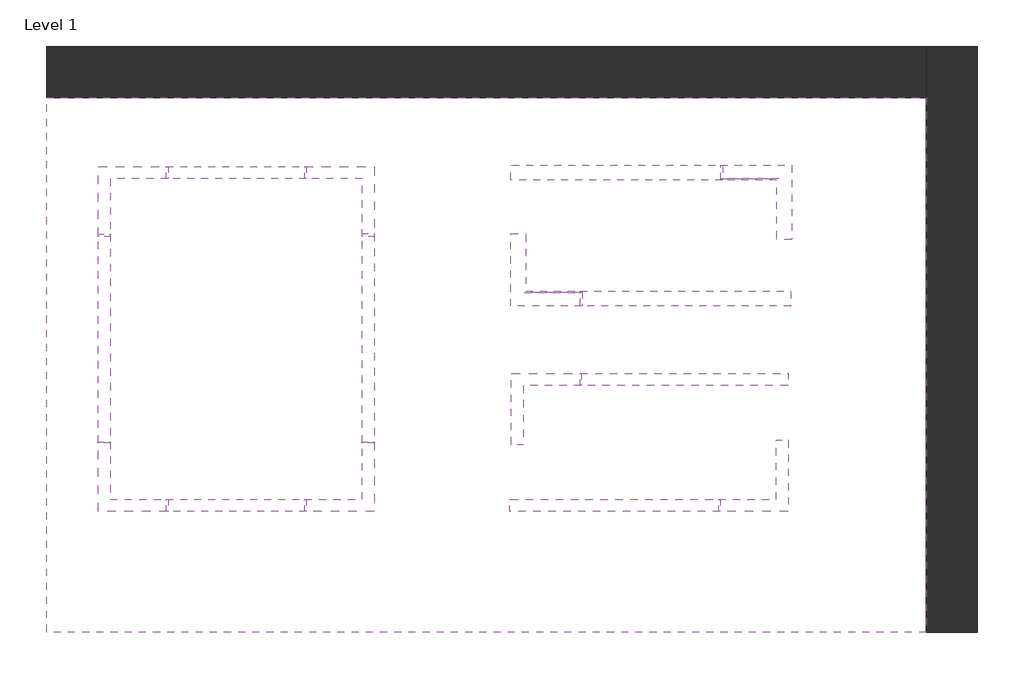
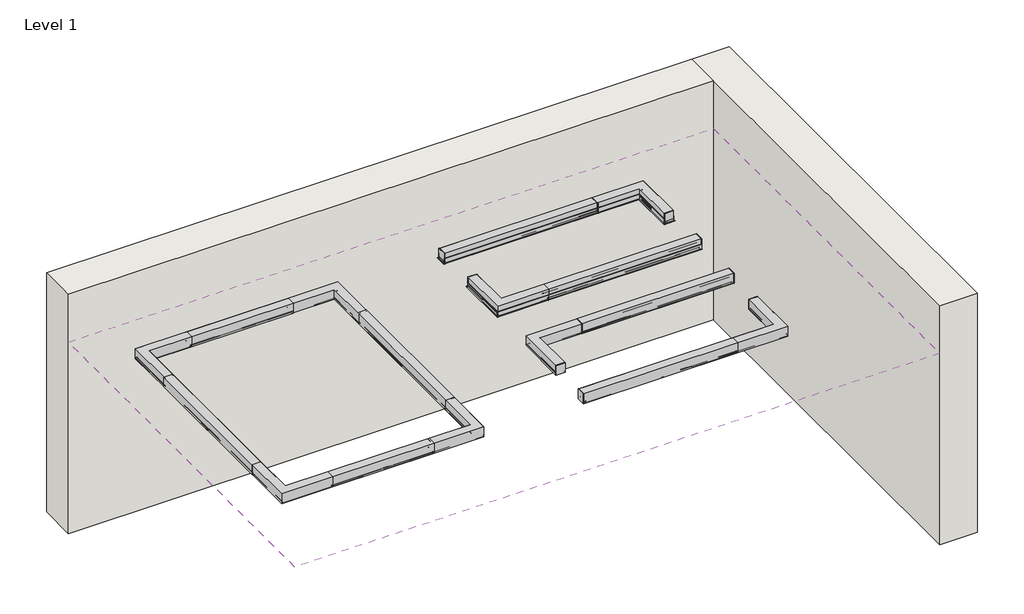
# One storey: 16 light fixtures, 2 walls, 1 covering.
"""IFC4 building model written with IfcOpenShell, lengths in millimetres."""

from ifc_helpers import new_model, si_unit, origin, origin_with_axes, place, context, project, spatial, polyline, outline, extrude, faceted_brep, transform, mapped, element, save
from components import lighting_recessed_axis_extend_4_c019952e, lighting_recessed_axis_extend_4_53cd2307, lighting_recessed_axis_extend_4_c7a2c006, lighting_recessed_axis_extend_4_4ed69525, lighting_recessed_axis_extend_4_3b23e5d8, lighting_recessed_axis_extend_4_e0629199, lighting_recessed_axis_extend_4_corner_2x2_46e1a410, lighting_recessed_axis_extend_4_corner_2x2_4d560086, lighting_recessed_axis_extend_4_corner_2x2_71452913, lighting_recessed_axis_extend_4_corner_2x2_6065db3e

model = new_model("IFC4")

# Units and contexts
model_context = context("Model", 3, world=origin())
ifc_project = project(units=[si_unit("LENGTHUNIT", "METRE", prefix="MILLI")], contexts=[model_context])

# Site, building, storey
site = spatial("IfcSite", under=ifc_project)
building = spatial("IfcBuilding", under=site)
storey = spatial("IfcBuildingStorey", under=building, Name="Level 1", Elevation=0.0)

# Covering
placement = place(None, origin())
element("IfcCovering", 1, ObjectType="2' x 4' ACT System", at=placement, inside=storey, context=model_context, shape_type="Brep", body=[
    faceted_brep([(-4065.1843493, 6283.1270347, 2495.55), (-4065.1843493, 1558.7270347, 2495.55), (3707.2156507, 1558.7270347, 2495.55), (3707.2156507, 6283.1270347, 2495.55), (2383.5231266, 2731.0970547, 2495.55), (2383.5231266, 3256.4630347, 2495.55), (2489.0931466, 3256.4630347, 2495.55), (2489.0931466, 2625.5270347, 2495.55), (1888.3142184, 2625.5270347, 2495.55), (1888.3142184, 2625.3298266, 2495.55), (29.0215184, 2625.3298266, 2495.55), (29.0215184, 2730.8998466, 2495.55), (1865.8606184, 2730.8998466, 2495.55), (1865.8606184, 2731.0970547, 2495.55), (2488.4131607, 3739.1570147, 2495.55), (147.1333854, 3739.1570147, 2495.55), (147.1333854, 3213.7910347, 2495.55), (41.5633654, 3213.7910347, 2495.55), (41.5633654, 3844.7270347, 2495.55), (2488.4131607, 3844.7270347, 2495.55), (155.5831807, 5077.2239347, 2495.55), (155.5831807, 4559.5614265, 2495.55), (648.1704607, 4559.5614265, 2495.55), (648.1704607, 4562.1830547, 2495.55), (2512.0351607, 4562.1830547, 2495.55), (2512.0351607, 4452.0410347, 2495.55), (648.1704607, 4452.0410347, 2495.55), (648.1704607, 4453.9914065, 2495.55), (50.0131607, 4453.9914065, 2495.55), (50.0131607, 5077.2239347, 2495.55), (2402.8600035, 5042.5910347, 2495.55), (2402.8600035, 5568.2926428, 2495.55), (1910.2727235, 5568.2926428, 2495.55), (1910.2727235, 5565.6710147, 2495.55), (46.4080235, 5565.6710147, 2495.55), (46.4080235, 5675.8130347, 2495.55), (1910.2727235, 5675.8130347, 2495.55), (1910.2727235, 5673.8626628, 2495.55), (2508.4300235, 5673.8626628, 2495.55), (2508.4300235, 5042.5910347, 2495.55), (-1785.7337393, 5674.2601728, 2495.55), (-1169.1868393, 5674.2601728, 2495.55), (-1169.1868393, 5080.4341307, 2495.55), (-1168.5468494, 5080.4341307, 2495.55), (-1168.5468494, 3233.3207307, 2495.55), (-1169.2487211, 3233.3207307, 2495.55), (-1169.2487211, 2625.5270347, 2495.55), (-2991.4374493, 2625.5270347, 2495.55), (-2991.4374493, 2624.7990578, 2495.55), (-3607.9843493, 2624.7990578, 2495.55), (-3608.0852607, 5673.9245447, 2495.55), (-1785.7337393, 5673.9245447, 2495.55), (-4065.1843493, 1558.7270347, 2438.4), (-4065.1843493, 6283.1270347, 2438.4), (3707.2156507, 6283.1270347, 2438.4), (3707.2156507, 1558.7270347, 2438.4), (2383.5231266, 3256.4630347, 2438.4), (2383.5231266, 2731.0970547, 2438.4), (1865.8606184, 2731.0970547, 2438.4), (1865.8606184, 2730.8998466, 2438.4), (29.0215184, 2730.8998466, 2438.4), (29.0215184, 2625.3298266, 2438.4), (1888.3142184, 2625.3298266, 2438.4), (1888.3142184, 2625.5270347, 2438.4), (2489.0931466, 2625.5270347, 2438.4), (2489.0931466, 3256.4630347, 2438.4), (147.1333854, 3213.7910347, 2438.4), (147.1333854, 3739.1570147, 2438.4), (2488.4131607, 3739.1570147, 2438.4), (2488.4131607, 3844.7270347, 2438.4), (41.5633654, 3844.7270347, 2438.4), (41.5633654, 3213.7910347, 2438.4), (155.5831807, 4559.5614265, 2438.4), (155.5831807, 5077.2239347, 2438.4), (50.0131607, 5077.2239347, 2438.4), (50.0131607, 4453.9914065, 2438.4), (648.1704607, 4453.9914065, 2438.4), (648.1704607, 4452.0410347, 2438.4), (2512.0351607, 4452.0410347, 2438.4), (2512.0351607, 4562.1830547, 2438.4), (648.1704607, 4562.1830547, 2438.4), (648.1704607, 4559.5614265, 2438.4), (2402.8600035, 5568.2926428, 2438.4), (2402.8600035, 5042.5910347, 2438.4), (2508.4300235, 5042.5910347, 2438.4), (2508.4300235, 5673.8626628, 2438.4), (1910.2727235, 5673.8626628, 2438.4), (1910.2727235, 5675.8130347, 2438.4), (46.4080235, 5675.8130347, 2438.4), (46.4080235, 5565.6710147, 2438.4), (1910.2727235, 5565.6710147, 2438.4), (1910.2727235, 5568.2926428, 2438.4), (-1169.1868393, 5674.2601728, 2438.4), (-1785.7337393, 5674.2601728, 2438.4), (-1785.7337393, 5673.9245447, 2438.4), (-3608.0852607, 5673.9245447, 2438.4), (-3607.9843493, 2624.7990578, 2438.4), (-2991.4374493, 2624.7990578, 2438.4), (-2991.4374493, 2625.5270347, 2438.4), (-1169.2487211, 2625.5270347, 2438.4), (-1169.2487211, 3233.3207307, 2438.4), (-1168.5468494, 3233.3207307, 2438.4), (-1168.5468494, 5080.4341307, 2438.4), (-1169.1868393, 5080.4341307, 2438.4)], [[[0, 1, 2, 3], [4, 5, 6, 7, 8, 9, 10, 11, 12, 13], [14, 15, 16, 17, 18, 19], [20, 21, 22, 23, 24, 25, 26, 27, 28, 29], [30, 31, 32, 33, 34, 35, 36, 37, 38, 39], [40, 41, 42, 43, 44, 45, 46, 47, 48, 49, 50, 51]], [[52, 53, 54, 55], [56, 57, 58, 59, 60, 61, 62, 63, 64, 65], [66, 67, 68, 69, 70, 71], [72, 73, 74, 75, 76, 77, 78, 79, 80, 81], [82, 83, 84, 85, 86, 87, 88, 89, 90, 91], [92, 93, 94, 95, 96, 97, 98, 99, 100, 101, 102, 103]], [[1, 0, 53, 52]], [[2, 1, 52, 55]], [[3, 2, 55, 54]], [[0, 3, 54, 53]], [[56, 5, 4, 57]], [[57, 4, 13, 58]], [[58, 13, 12, 59]], [[7, 64, 63, 8]], [[64, 7, 6, 65]], [[5, 56, 65, 6]], [[9, 62, 61, 10]], [[60, 11, 10, 61]], [[11, 60, 59, 12]], [[62, 9, 8, 63]], [[66, 16, 15, 67]], [[67, 15, 14, 68]], [[18, 70, 69, 19]], [[70, 18, 17, 71]], [[16, 66, 71, 17]], [[68, 14, 19, 69]], [[21, 72, 81, 22]], [[72, 21, 20, 73]], [[73, 20, 29, 74]], [[74, 29, 28, 75]], [[75, 28, 27, 76]], [[31, 82, 91, 32]], [[82, 31, 30, 83]], [[83, 30, 39, 84]], [[84, 39, 38, 85]], [[85, 38, 37, 86]], [[46, 99, 98, 47]], [[99, 46, 45, 100]], [[95, 50, 49, 96]], [[41, 92, 103, 42]], [[92, 41, 40, 93]], [[93, 40, 51, 94]], [[96, 49, 48, 97]], [[97, 48, 47, 98]], [[50, 95, 94, 51]], [[43, 102, 101, 44]], [[44, 101, 100, 45]], [[102, 43, 42, 103]], [[25, 78, 77, 26]], [[26, 77, 76, 27]], [[80, 23, 22, 81]], [[23, 80, 79, 24]], [[78, 25, 24, 79]], [[33, 90, 89, 34]], [[34, 89, 88, 35]], [[35, 88, 87, 36]], [[90, 33, 32, 91]], [[36, 87, 86, 37]]]),
    faceted_brep([(-1274.8187411, 2731.0970547, 2495.55), (-1274.8187411, 3242.0739347, 2495.55), (-1274.1168694, 3242.0739347, 2495.55), (-1274.1168694, 5051.0276447, 2495.55), (-1274.7568593, 5051.0276447, 2495.55), (-1274.7568593, 5568.6901528, 2495.55), (-1769.6301393, 5568.6901528, 2495.55), (-1769.6301393, 5568.3545247, 2495.55), (-3502.5152407, 5568.3545247, 2495.55), (-3502.4143293, 2730.3690778, 2495.55), (-3007.5410493, 2730.3690778, 2495.55), (-3007.5410493, 2731.0970547, 2495.55), (-1274.8187411, 3242.0739347, 2438.4), (-1274.8187411, 2731.0970547, 2438.4), (-3007.5410493, 2731.0970547, 2438.4), (-3007.5410493, 2730.3690778, 2438.4), (-3502.4143293, 2730.3690778, 2438.4), (-3502.5152407, 5568.3545247, 2438.4), (-1769.6301393, 5568.3545247, 2438.4), (-1769.6301393, 5568.6901528, 2438.4), (-1274.7568593, 5568.6901528, 2438.4), (-1274.7568593, 5051.0276447, 2438.4), (-1274.1168694, 5051.0276447, 2438.4), (-1274.1168694, 3242.0739347, 2438.4)], [[[0, 1, 2, 3, 4, 5, 6, 7, 8, 9, 10, 11]], [[12, 13, 14, 15, 16, 17, 18, 19, 20, 21, 22, 23]], [[12, 1, 0, 13]], [[13, 0, 11, 14]], [[1, 12, 23, 2]], [[8, 17, 16, 9]], [[5, 20, 19, 6]], [[20, 5, 4, 21]], [[21, 4, 3, 22]], [[9, 16, 15, 10]], [[14, 11, 10, 15]], [[17, 8, 7, 18]], [[18, 7, 6, 19]], [[3, 2, 23, 22]]]),
])

# Light fixtures
lighting_recessed_axis_extend_4_shape = lighting_recessed_axis_extend_4_c019952e(model_context)
element("IfcLightFixture", 2, ObjectType="Lighting-Recessed-Axis-Extend_4 : EX4R-900-80-35-SO-4", at=placement, inside=storey, context=model_context, shape_type="MappedRepresentation", body=[
    mapped(lighting_recessed_axis_extend_4_shape, transform((-2388.7843493, 2678.3120447, 2438.4), x_axis=(1.0, 0.0, 0.0), y_axis=(0.0, -1.0, 0.0), z_axis=(0.0, 0.0, -1.0))),
])
element("IfcLightFixture", 3, ObjectType="Lighting-Recessed-Axis-Extend_4 : EX4R-900-80-35-SO-4", at=placement, inside=storey, context=model_context, shape_type="MappedRepresentation", body=[
    mapped(lighting_recessed_axis_extend_4_shape, transform((-2388.3868393, 5621.1395347, 2438.4), x_axis=(1.0, 0.0, 0.0), y_axis=(0.0, -1.0, 0.0), z_axis=(0.0, 0.0, -1.0))),
])
lighting_recessed_axis_extend_4_2_shape = lighting_recessed_axis_extend_4_53cd2307(model_context)
element("IfcLightFixture", 4, ObjectType="Lighting-Recessed-Axis-Extend_4 : EX4R-900-80-35-SO-4", at=placement, inside=storey, context=model_context, shape_type="MappedRepresentation", body=[
    mapped(lighting_recessed_axis_extend_4_2_shape, transform((-3555.1993393, 4155.3402099, 2438.4), x_axis=(0.0, 1.0, 0.0), y_axis=(1.0, 0.0, 0.0), z_axis=(0.0, 0.0, -1.0))),
])
element("IfcLightFixture", 5, ObjectType="Lighting-Recessed-Axis-Extend_4 : EX4R-900-80-35-SO-4", at=placement, inside=storey, context=model_context, shape_type="MappedRepresentation", body=[
    mapped(lighting_recessed_axis_extend_4_2_shape, transform((-1221.3318594, 4156.8774307, 2438.4), x_axis=(0.0, 1.0, 0.0), y_axis=(1.0, 0.0, 0.0), z_axis=(0.0, 0.0, -1.0))),
])
lighting_recessed_axis_extend_4_3_shape = lighting_recessed_axis_extend_4_c7a2c006(model_context)
element("IfcLightFixture", 6, ObjectType="Lighting-Recessed-Axis-Extend_4 : EX4R-900-80-35-SO-4", at=placement, inside=storey, context=model_context, shape_type="MappedRepresentation", body=[
    mapped(lighting_recessed_axis_extend_4_3_shape, transform((964.7575184, 2678.1148366, 2438.4), x_axis=(1.0, 0.0, 0.0), y_axis=(0.0, -1.0, 0.0), z_axis=(0.0, 0.0, -1.0))),
])
lighting_recessed_axis_extend_4_4_shape = lighting_recessed_axis_extend_4_4ed69525(model_context)
element("IfcLightFixture", 7, ObjectType="Lighting-Recessed-Axis-Extend_4 : EX4R-900-80-35-SO-4", at=placement, inside=storey, context=model_context, shape_type="MappedRepresentation", body=[
    mapped(lighting_recessed_axis_extend_4_4_shape, transform((1563.333533, 3791.9420247, 2438.4), x_axis=(1.0, 0.0, 0.0), y_axis=(0.0, -1.0, 0.0), z_axis=(0.0, 0.0, -1.0))),
])
lighting_recessed_axis_extend_4_5_shape = lighting_recessed_axis_extend_4_3b23e5d8(model_context)
element("IfcLightFixture", 8, ObjectType="Lighting-Recessed-Axis-Extend_4 : EX4R-900-80-35-SO-4", at=placement, inside=storey, context=model_context, shape_type="MappedRepresentation", body=[
    mapped(lighting_recessed_axis_extend_4_5_shape, transform((1574.0131607, 4507.1120447, 2438.4), x_axis=(1.0, 0.0, 0.0), y_axis=(0.0, -1.0, 0.0), z_axis=(0.0, 0.0, -1.0))),
])
lighting_recessed_axis_extend_4_6_shape = lighting_recessed_axis_extend_4_e0629199(model_context)
element("IfcLightFixture", 9, ObjectType="Lighting-Recessed-Axis-Extend_4 : EX4R-900-80-35-SO-4", at=placement, inside=storey, context=model_context, shape_type="MappedRepresentation", body=[
    mapped(lighting_recessed_axis_extend_4_6_shape, transform((984.4300235, 5620.7420247, 2438.4), x_axis=(1.0, 0.0, 0.0), y_axis=(0.0, -1.0, 0.0), z_axis=(0.0, 0.0, -1.0))),
])
lighting_recessed_axis_extend_4_corner_2x2_shape = lighting_recessed_axis_extend_4_corner_2x2_46e1a410(model_context)
element("IfcLightFixture", 10, ObjectType="Lighting-Recessed-Axis-Extend_4-Corner : 2x2", at=placement, inside=storey, context=model_context, shape_type="MappedRepresentation", body=[
    mapped(lighting_recessed_axis_extend_4_corner_2x2_shape, transform((-3554.9646225, 5621.1395347, 2438.4), x_axis=(-1.0, 0.0, 0.0), y_axis=(0.0, 1.0, 0.0), z_axis=(0.0, 0.0, -1.0))),
])
element("IfcLightFixture", 11, ObjectType="Lighting-Recessed-Axis-Extend_4-Corner : 2x2", at=placement, inside=storey, context=model_context, shape_type="MappedRepresentation", body=[
    mapped(lighting_recessed_axis_extend_4_corner_2x2_shape, transform((-1222.3693593, 2678.3120447, 2438.4), x_axis=(1.0, 0.0, 0.0), y_axis=(0.0, -1.0, 0.0), z_axis=(0.0, 0.0, -1.0))),
])
element("IfcLightFixture", 12, ObjectType="Lighting-Recessed-Axis-Extend_4-Corner : 2x2", at=placement, inside=storey, context=model_context, shape_type="MappedRepresentation", body=[
    mapped(lighting_recessed_axis_extend_4_corner_2x2_shape, transform((-1221.9718493, 5621.1395347, 2438.4), x_axis=(0.0, 1.0, 0.0), y_axis=(1.0, 0.0, 0.0), z_axis=(0.0, 0.0, -1.0))),
])
element("IfcLightFixture", 13, ObjectType="Lighting-Recessed-Axis-Extend_4-Corner : 2x2", at=placement, inside=storey, context=model_context, shape_type="MappedRepresentation", body=[
    mapped(lighting_recessed_axis_extend_4_corner_2x2_shape, transform((-3555.1993393, 2677.919696, 2438.4), x_axis=(0.0, -1.0, 0.0), y_axis=(-1.0, 0.0, 0.0), z_axis=(0.0, 0.0, -1.0))),
])
lighting_recessed_axis_extend_4_corner_2x2_2_shape = lighting_recessed_axis_extend_4_corner_2x2_4d560086(model_context)
element("IfcLightFixture", 14, ObjectType="Lighting-Recessed-Axis-Extend_4-Corner : 2x2", at=placement, inside=storey, context=model_context, shape_type="MappedRepresentation", body=[
    mapped(lighting_recessed_axis_extend_4_corner_2x2_2_shape, transform((2435.9725084, 2678.3120447, 2438.4), x_axis=(1.0, 0.0, 0.0), y_axis=(0.0, -1.0, 0.0), z_axis=(0.0, 0.0, -1.0))),
])
element("IfcLightFixture", 15, ObjectType="Lighting-Recessed-Axis-Extend_4-Corner : 2x2", at=placement, inside=storey, context=model_context, shape_type="MappedRepresentation", body=[
    mapped(lighting_recessed_axis_extend_4_corner_2x2_2_shape, transform((94.6840035, 3791.9420247, 2438.4), x_axis=(-1.0, 0.0, 0.0), y_axis=(0.0, 1.0, 0.0), z_axis=(0.0, 0.0, -1.0))),
])
lighting_recessed_axis_extend_4_corner_2x2_3_shape = lighting_recessed_axis_extend_4_corner_2x2_71452913(model_context)
element("IfcLightFixture", 16, ObjectType="Lighting-Recessed-Axis-Extend_4-Corner : 2x2", at=placement, inside=storey, context=model_context, shape_type="MappedRepresentation", body=[
    mapped(lighting_recessed_axis_extend_4_corner_2x2_3_shape, transform((102.7981707, 4507.1120447, 2438.4), x_axis=(0.0, -1.0, 0.0), y_axis=(-1.0, 0.0, 0.0), z_axis=(0.0, 0.0, -1.0))),
])
lighting_recessed_axis_extend_4_corner_2x2_4_shape = lighting_recessed_axis_extend_4_corner_2x2_6065db3e(model_context)
element("IfcLightFixture", 17, ObjectType="Lighting-Recessed-Axis-Extend_4-Corner : 2x2", at=placement, inside=storey, context=model_context, shape_type="MappedRepresentation", body=[
    mapped(lighting_recessed_axis_extend_4_corner_2x2_4_shape, transform((2455.6450135, 5620.7420247, 2438.4), x_axis=(0.0, 1.0, 0.0), y_axis=(1.0, 0.0, 0.0), z_axis=(0.0, 0.0, -1.0))),
])

# Walls
element("IfcWall", 18, ObjectType="Exterior - CMU on Mtl. Stud", at=placement, inside=storey, context=model_context, shape_type="Brep", body=[
    faceted_brep([(4160.9050226, 1558.7270347, 0.0), (4160.9050226, 6737.1520347, 0.0), (4160.9050226, 6737.1520347, 3048.0), (4160.9050226, 1558.7270347, 3048.0), (3706.8800226, 1558.7270347, 0.0), (3706.8800226, 1558.7270347, 3048.0), (3706.8800226, 6283.1270347, 3048.0), (3706.8800226, 6737.1520347, 3048.0), (3706.8800226, 6737.1520347, 0.0), (3706.8800226, 6283.1270347, 0.0)], [[[0, 1, 2, 3]], [[4, 5, 6, 7, 8, 9]], [[1, 0, 4, 9, 8]], [[3, 2, 7, 6, 5]], [[0, 3, 5, 4]], [[2, 1, 8, 7]]]),
])
element("IfcWall", 19, ObjectType="Exterior - CMU on Mtl. Stud", at=placement, inside=storey, context=model_context, shape_type="SweptSolid", body=[
    extrude(outline(polyline([(-4065.5199774, 6737.1520347), (3706.8800226, 6737.1520347), (3706.8800226, 6283.1270347), (-4065.5199774, 6283.1270347), (-4065.5199774, 6737.1520347)])), origin_with_axes(), (0.0, 0.0, 1.0), 3048.0),
])

save(model, "model.ifc")
